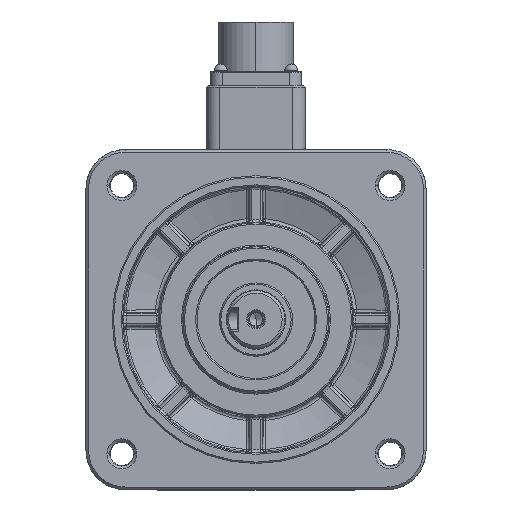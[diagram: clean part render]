
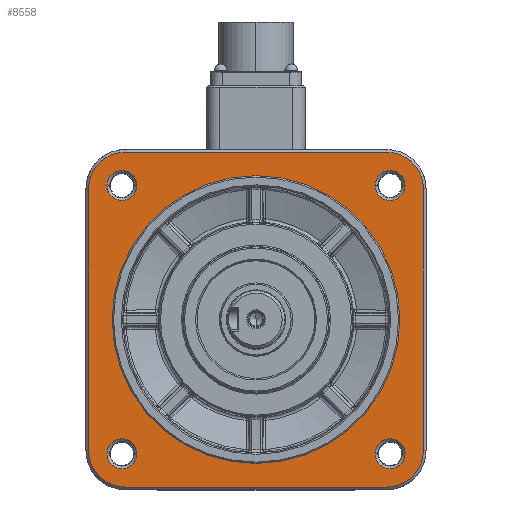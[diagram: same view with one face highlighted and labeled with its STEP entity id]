
A CAD part, top view. The second image highlights one B-rep face of the part: STEP entity #8558.
In plain terms, the highlighted planar face has unit normal (0, 0, 1).
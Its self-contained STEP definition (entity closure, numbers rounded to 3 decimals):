
#770=CARTESIAN_POINT('',(-50.,50.,85.5));
#771=DIRECTION('',(0.,0.,-1.));
#772=DIRECTION('',(-1.,0.,0.));
#773=AXIS2_PLACEMENT_3D('',#770,#771,#772);
#775=DIRECTION('',(1.,0.,0.));
#776=VECTOR('',#775,100.);
#777=CARTESIAN_POINT('',(-50.,63.982,85.5));
#778=LINE('',#777,#776);
#779=CARTESIAN_POINT('',(50.,50.,85.5));
#780=DIRECTION('',(0.,0.,-1.));
#781=DIRECTION('',(0.,1.,0.));
#782=AXIS2_PLACEMENT_3D('',#779,#780,#781);
#784=DIRECTION('',(0.,-1.,0.));
#785=VECTOR('',#784,100.);
#786=CARTESIAN_POINT('',(63.982,50.,85.5));
#787=LINE('',#786,#785);
#788=CARTESIAN_POINT('',(50.,-50.,85.5));
#789=DIRECTION('',(0.,0.,-1.));
#790=DIRECTION('',(1.,0.,0.));
#791=AXIS2_PLACEMENT_3D('',#788,#789,#790);
#793=DIRECTION('',(-1.,0.,0.));
#794=VECTOR('',#793,100.);
#795=CARTESIAN_POINT('',(50.,-63.982,85.5));
#796=LINE('',#795,#794);
#797=CARTESIAN_POINT('',(-50.,-50.,85.5));
#798=DIRECTION('',(0.,0.,-1.));
#799=DIRECTION('',(0.,-1.,0.));
#800=AXIS2_PLACEMENT_3D('',#797,#798,#799);
#802=DIRECTION('',(0.,1.,0.));
#803=VECTOR('',#802,100.);
#804=CARTESIAN_POINT('',(-63.982,-50.,85.5));
#805=LINE('',#804,#803);
#806=CARTESIAN_POINT('',(-51.265,51.265,85.5));
#807=DIRECTION('',(0.,0.,1.));
#808=DIRECTION('',(-1.,0.,0.));
#809=AXIS2_PLACEMENT_3D('',#806,#807,#808);
#811=CARTESIAN_POINT('',(-51.265,51.265,85.5));
#812=DIRECTION('',(0.,0.,1.));
#813=DIRECTION('',(0.,-1.,0.));
#814=AXIS2_PLACEMENT_3D('',#811,#812,#813);
#816=CARTESIAN_POINT('',(-51.265,51.265,85.5));
#817=DIRECTION('',(0.,0.,1.));
#818=DIRECTION('',(1.,0.,0.));
#819=AXIS2_PLACEMENT_3D('',#816,#817,#818);
#821=CARTESIAN_POINT('',(-51.265,51.265,85.5));
#822=DIRECTION('',(0.,0.,1.));
#823=DIRECTION('',(0.,1.,0.));
#824=AXIS2_PLACEMENT_3D('',#821,#822,#823);
#826=CARTESIAN_POINT('',(0.,0.,85.5));
#827=DIRECTION('',(0.,0.,1.));
#828=DIRECTION('',(0.,-1.,0.));
#829=AXIS2_PLACEMENT_3D('',#826,#827,#828);
#831=CARTESIAN_POINT('',(0.,0.,85.5));
#832=DIRECTION('',(0.,0.,1.));
#833=DIRECTION('',(0.,1.,0.));
#834=AXIS2_PLACEMENT_3D('',#831,#832,#833);
#836=CARTESIAN_POINT('',(51.265,51.265,85.5));
#837=DIRECTION('',(0.,0.,1.));
#838=DIRECTION('',(1.,0.,0.));
#839=AXIS2_PLACEMENT_3D('',#836,#837,#838);
#841=CARTESIAN_POINT('',(51.265,51.265,85.5));
#842=DIRECTION('',(0.,0.,1.));
#843=DIRECTION('',(0.,1.,0.));
#844=AXIS2_PLACEMENT_3D('',#841,#842,#843);
#846=CARTESIAN_POINT('',(51.265,51.265,85.5));
#847=DIRECTION('',(0.,0.,1.));
#848=DIRECTION('',(-1.,0.,0.));
#849=AXIS2_PLACEMENT_3D('',#846,#847,#848);
#851=CARTESIAN_POINT('',(51.265,51.265,85.5));
#852=DIRECTION('',(0.,0.,1.));
#853=DIRECTION('',(0.,-1.,0.));
#854=AXIS2_PLACEMENT_3D('',#851,#852,#853);
#856=CARTESIAN_POINT('',(51.265,-51.265,85.5));
#857=DIRECTION('',(0.,0.,1.));
#858=DIRECTION('',(-1.,0.,0.));
#859=AXIS2_PLACEMENT_3D('',#856,#857,#858);
#861=CARTESIAN_POINT('',(51.265,-51.265,85.5));
#862=DIRECTION('',(0.,0.,1.));
#863=DIRECTION('',(0.,-1.,0.));
#864=AXIS2_PLACEMENT_3D('',#861,#862,#863);
#866=CARTESIAN_POINT('',(51.265,-51.265,85.5));
#867=DIRECTION('',(0.,0.,1.));
#868=DIRECTION('',(1.,0.,0.));
#869=AXIS2_PLACEMENT_3D('',#866,#867,#868);
#871=CARTESIAN_POINT('',(51.265,-51.265,85.5));
#872=DIRECTION('',(0.,0.,1.));
#873=DIRECTION('',(0.,1.,0.));
#874=AXIS2_PLACEMENT_3D('',#871,#872,#873);
#876=CARTESIAN_POINT('',(-51.265,-51.265,85.5));
#877=DIRECTION('',(0.,0.,1.));
#878=DIRECTION('',(-1.,0.,0.));
#879=AXIS2_PLACEMENT_3D('',#876,#877,#878);
#881=CARTESIAN_POINT('',(-51.265,-51.265,85.5));
#882=DIRECTION('',(0.,0.,1.));
#883=DIRECTION('',(0.,-1.,0.));
#884=AXIS2_PLACEMENT_3D('',#881,#882,#883);
#886=CARTESIAN_POINT('',(-51.265,-51.265,85.5));
#887=DIRECTION('',(0.,0.,1.));
#888=DIRECTION('',(1.,0.,0.));
#889=AXIS2_PLACEMENT_3D('',#886,#887,#888);
#891=CARTESIAN_POINT('',(-51.265,-51.265,85.5));
#892=DIRECTION('',(0.,0.,1.));
#893=DIRECTION('',(0.,1.,0.));
#894=AXIS2_PLACEMENT_3D('',#891,#892,#893);
#6232=CARTESIAN_POINT('',(-50.,63.982,85.5));
#6233=CARTESIAN_POINT('',(50.,63.982,85.5));
#6234=VERTEX_POINT('',#6232);
#6235=VERTEX_POINT('',#6233);
#6236=CARTESIAN_POINT('',(-63.982,50.,85.5));
#6237=VERTEX_POINT('',#6236);
#6238=CARTESIAN_POINT('',(63.982,50.,85.5));
#6239=VERTEX_POINT('',#6238);
#6240=CARTESIAN_POINT('',(63.982,-50.,85.5));
#6241=VERTEX_POINT('',#6240);
#6242=CARTESIAN_POINT('',(50.,-63.982,85.5));
#6243=VERTEX_POINT('',#6242);
#6244=CARTESIAN_POINT('',(-50.,-63.982,
85.5));
#6245=VERTEX_POINT('',#6244);
#6246=CARTESIAN_POINT('',(-63.982,-50.,85.5));
#6247=VERTEX_POINT('',#6246);
#6248=CARTESIAN_POINT('',(-51.265,45.547,85.5));
#6249=CARTESIAN_POINT('',(-45.547,51.265,85.5));
#6250=VERTEX_POINT('',#6248);
#6251=VERTEX_POINT('',#6249);
#6252=CARTESIAN_POINT('',(-56.983,51.265,85.5));
#6253=VERTEX_POINT('',#6252);
#6254=CARTESIAN_POINT('',(-51.265,56.983,85.5));
#6255=VERTEX_POINT('',#6254);
#6256=CARTESIAN_POINT('',(0.,-55.,85.5));
#6257=CARTESIAN_POINT('',(0.,55.,85.5));
#6258=VERTEX_POINT('',#6256);
#6259=VERTEX_POINT('',#6257);
#6260=CARTESIAN_POINT('',(51.265,56.983,85.5));
#6261=CARTESIAN_POINT('',(45.547,51.265,85.5));
#6262=VERTEX_POINT('',#6260);
#6263=VERTEX_POINT('',#6261);
#6264=CARTESIAN_POINT('',(56.983,51.265,85.5));
#6265=VERTEX_POINT('',#6264);
#6266=CARTESIAN_POINT('',(51.265,45.547,85.5));
#6267=VERTEX_POINT('',#6266);
#6268=CARTESIAN_POINT('',(51.265,-56.983,85.5));
#6269=CARTESIAN_POINT('',(56.983,-51.265,85.5));
#6270=VERTEX_POINT('',#6268);
#6271=VERTEX_POINT('',#6269);
#6272=CARTESIAN_POINT('',(45.547,-51.265,85.5));
#6273=VERTEX_POINT('',#6272);
#6274=CARTESIAN_POINT('',(51.265,-45.547,85.5));
#6275=VERTEX_POINT('',#6274);
#6276=CARTESIAN_POINT('',(-51.265,-56.983,85.5));
#6277=CARTESIAN_POINT('',(-45.547,-51.265,85.5));
#6278=VERTEX_POINT('',#6276);
#6279=VERTEX_POINT('',#6277);
#6280=CARTESIAN_POINT('',(-56.983,-51.265,85.5));
#6281=VERTEX_POINT('',#6280);
#6282=CARTESIAN_POINT('',(-51.265,-45.547,85.5));
#6283=VERTEX_POINT('',#6282);
#8491=CARTESIAN_POINT('',(0.,0.,85.5));
#8492=DIRECTION('',(0.,0.,-1.));
#8493=DIRECTION('',(0.,-1.,0.));
#8494=AXIS2_PLACEMENT_3D('',#8491,#8492,#8493);
#8495=PLANE('',#8494);
#8497=ORIENTED_EDGE('',*,*,#8496,.T.);
#8499=ORIENTED_EDGE('',*,*,#8498,.T.);
#8501=ORIENTED_EDGE('',*,*,#8500,.T.);
#8503=ORIENTED_EDGE('',*,*,#8502,.T.);
#8505=ORIENTED_EDGE('',*,*,#8504,.T.);
#8507=ORIENTED_EDGE('',*,*,#8506,.T.);
#8509=ORIENTED_EDGE('',*,*,#8508,.T.);
#8511=ORIENTED_EDGE('',*,*,#8510,.T.);
#8512=EDGE_LOOP('',(#8497,#8499,#8501,#8503,#8505,#8507,#8509,#8511));
#8513=FACE_OUTER_BOUND('',#8512,.F.);
#8514=ORIENTED_EDGE('',*,*,#8480,.T.);
#8515=ORIENTED_EDGE('',*,*,#8478,.T.);
#8517=ORIENTED_EDGE('',*,*,#8516,.T.);
#8519=ORIENTED_EDGE('',*,*,#8518,.T.);
#8520=EDGE_LOOP('',(#8514,#8515,#8517,#8519));
#8521=FACE_BOUND('',#8520,.F.);
#8523=ORIENTED_EDGE('',*,*,#8522,.T.);
#8525=ORIENTED_EDGE('',*,*,#8524,.T.);
#8526=EDGE_LOOP('',(#8523,#8525));
#8527=FACE_BOUND('',#8526,.F.);
#8529=ORIENTED_EDGE('',*,*,#8528,.T.);
#8531=ORIENTED_EDGE('',*,*,#8530,.T.);
#8533=ORIENTED_EDGE('',*,*,#8532,.T.);
#8535=ORIENTED_EDGE('',*,*,#8534,.T.);
#8536=EDGE_LOOP('',(#8529,#8531,#8533,#8535));
#8537=FACE_BOUND('',#8536,.F.);
#8539=ORIENTED_EDGE('',*,*,#8538,.T.);
#8541=ORIENTED_EDGE('',*,*,#8540,.T.);
#8543=ORIENTED_EDGE('',*,*,#8542,.T.);
#8545=ORIENTED_EDGE('',*,*,#8544,.T.);
#8546=EDGE_LOOP('',(#8539,#8541,#8543,#8545));
#8547=FACE_BOUND('',#8546,.F.);
#8549=ORIENTED_EDGE('',*,*,#8548,.T.);
#8551=ORIENTED_EDGE('',*,*,#8550,.T.);
#8553=ORIENTED_EDGE('',*,*,#8552,.T.);
#8555=ORIENTED_EDGE('',*,*,#8554,.T.);
#8556=EDGE_LOOP('',(#8549,#8551,#8553,#8555));
#8557=FACE_BOUND('',#8556,.F.);
#8558=ADVANCED_FACE('',(#8513,#8521,#8527,#8537,#8547,#8557),#8495,.F.);
#774=CIRCLE('',#773,13.982);
#783=CIRCLE('',#782,13.982);
#792=CIRCLE('',#791,13.982);
#801=CIRCLE('',#800,13.982);
#810=CIRCLE('',#809,5.718);
#815=CIRCLE('',#814,5.718);
#820=CIRCLE('',#819,5.718);
#825=CIRCLE('',#824,5.718);
#830=CIRCLE('',#829,55.);
#835=CIRCLE('',#834,55.);
#840=CIRCLE('',#839,5.718);
#845=CIRCLE('',#844,5.718);
#850=CIRCLE('',#849,5.718);
#855=CIRCLE('',#854,5.718);
#860=CIRCLE('',#859,5.718);
#865=CIRCLE('',#864,5.718);
#870=CIRCLE('',#869,5.718);
#875=CIRCLE('',#874,5.718);
#880=CIRCLE('',#879,5.718);
#885=CIRCLE('',#884,5.718);
#890=CIRCLE('',#889,5.718);
#895=CIRCLE('',#894,5.718);
#8478=EDGE_CURVE('',#6250,#6251,#815,.T.);
#8480=EDGE_CURVE('',#6253,#6250,#810,.T.);
#8496=EDGE_CURVE('',#6237,#6234,#774,.T.);
#8498=EDGE_CURVE('',#6234,#6235,#778,.T.);
#8500=EDGE_CURVE('',#6235,#6239,#783,.T.);
#8502=EDGE_CURVE('',#6239,#6241,#787,.T.);
#8504=EDGE_CURVE('',#6241,#6243,#792,.T.);
#8506=EDGE_CURVE('',#6243,#6245,#796,.T.);
#8508=EDGE_CURVE('',#6245,#6247,#801,.T.);
#8510=EDGE_CURVE('',#6247,#6237,#805,.T.);
#8516=EDGE_CURVE('',#6251,#6255,#820,.T.);
#8518=EDGE_CURVE('',#6255,#6253,#825,.T.);
#8522=EDGE_CURVE('',#6258,#6259,#830,.T.);
#8524=EDGE_CURVE('',#6259,#6258,#835,.T.);
#8528=EDGE_CURVE('',#6265,#6262,#840,.T.);
#8530=EDGE_CURVE('',#6262,#6263,#845,.T.);
#8532=EDGE_CURVE('',#6263,#6267,#850,.T.);
#8534=EDGE_CURVE('',#6267,#6265,#855,.T.);
#8538=EDGE_CURVE('',#6273,#6270,#860,.T.);
#8540=EDGE_CURVE('',#6270,#6271,#865,.T.);
#8542=EDGE_CURVE('',#6271,#6275,#870,.T.);
#8544=EDGE_CURVE('',#6275,#6273,#875,.T.);
#8548=EDGE_CURVE('',#6281,#6278,#880,.T.);
#8550=EDGE_CURVE('',#6278,#6279,#885,.T.);
#8552=EDGE_CURVE('',#6279,#6283,#890,.T.);
#8554=EDGE_CURVE('',#6283,#6281,#895,.T.);
